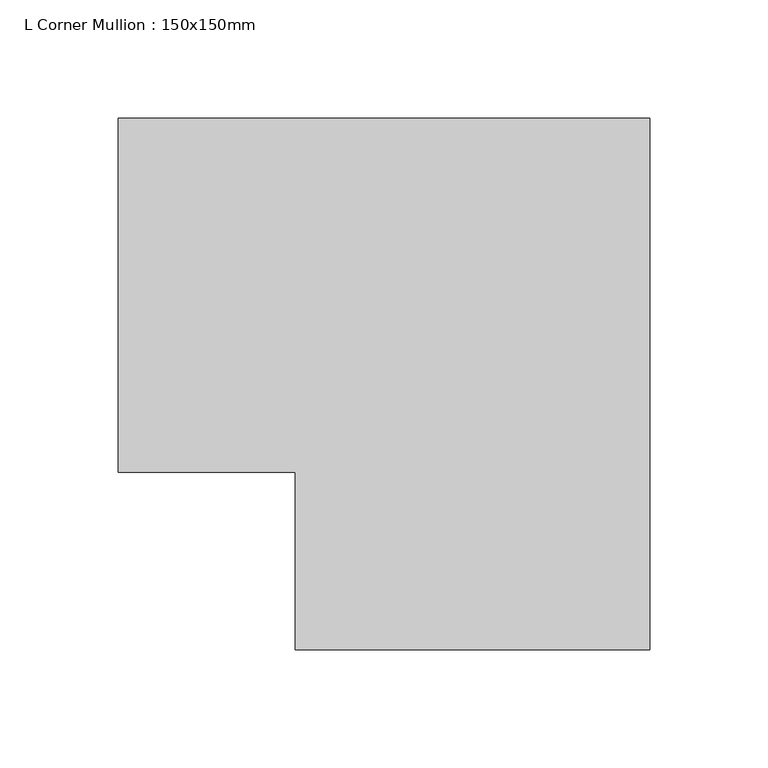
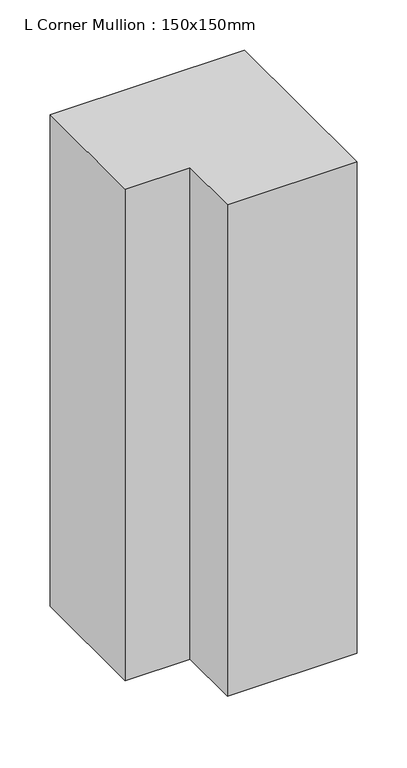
"""IFC4 building model written with IfcOpenShell, lengths in millimetres: member geometry, L Corner Mullion : 150x150mm."""

from ifc_helpers import new_model, si_unit, frame, origin, place, context, project, spatial, polyline, outline, extrude, source, transform, mapped, element, save


def l_corner_mullion_150x150mm_810fe6ea(model_context):
    return source(origin(), model_context, "Body", "SweptSolid", [
        extrude(outline(polyline([(-75.0, -150.0), (-75.0, -75.0), (-150.0, -75.0), (-150.0, 75.0), (75.0, 75.0), (75.0, -150.0), (-75.0, -150.0)])), frame((0.0, 0.0, -600.0), z_axis=(0.0, 0.0, 1.0), x_axis=(1.0, 0.0, 0.0)), (0.0, 0.0, 1.0), 600.0),
    ])


if __name__ == "__main__":
    model = new_model("IFC4")
    model_context = context("Model", 3, world=origin())
    ifc_project = project(units=[si_unit("LENGTHUNIT", "METRE", prefix="MILLI")], contexts=[model_context])
    site = spatial("IfcSite", under=ifc_project)
    building = spatial("IfcBuilding", under=site)
    placement = place(None, origin())
    l_corner_mullion_150x150mm_shape = l_corner_mullion_150x150mm_810fe6ea(model_context)
    element("IfcMember", 1, ObjectType="L Corner Mullion : 150x150mm", at=placement, inside=building, context=model_context, shape_type="MappedRepresentation", body=[
        mapped(l_corner_mullion_150x150mm_shape, transform((0.0, 0.0, 0.0), x_axis=(1.0, 0.0, 0.0), y_axis=(0.0, 1.0, 0.0), z_axis=(0.0, 0.0, 1.0))),
    ])
    save(model, "model.ifc")
